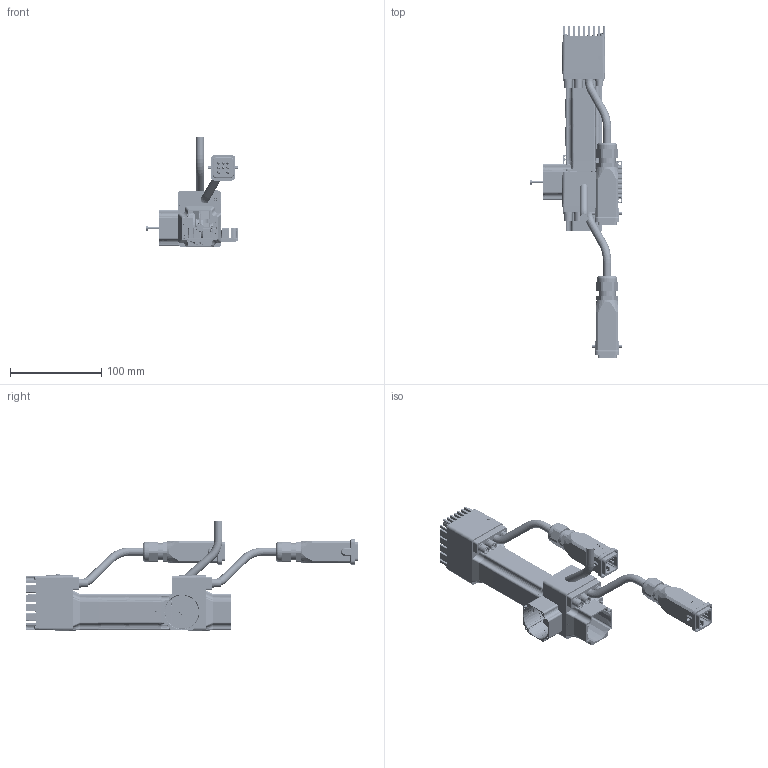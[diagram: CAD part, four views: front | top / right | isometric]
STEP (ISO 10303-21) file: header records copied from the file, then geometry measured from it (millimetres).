
FILE_DESCRIPTION( ( 'Unknown' ), '1' );
FILE_NAME( 'K:/Q0A975.stp', 'Unknown', ( 'Unknown' ), ( 'Unknown' ), 'PSStep 14.0', 'Unknown', ' ' );
FILE_SCHEMA( ( 'AUTOMOTIVE_DESIGN { 1 0 10303 214 1 1 1 1 }' ) );
Length unit declared in the file: millimetre
Products named in the file (47): 003755102005; 003108020031; Assem1; 007117000802; 005117001543; 005117001544; 005603001500; CAVO D9 N13A48; 005117000974; 005117000976; 003755102004; 003251021000; 003303000026; 005007000200; 003175000136; CUSC_7_19_6_607_ZZ; Vite a brugola testa cil 8,8 -  M  3 x 35; Vite a brugola testa cil 8,8 -  M  3 x 35-oa0; Vite a brugola testa cil 8,8 -  M  3 x 35-oa1; Vite a brugola testa cil 8,8 -  M  3 x 35-oa2; Vite a brugola testa cil 8,8 -  M 2,5 x 16; Vite a brugola testa cil 8,8 -  M 2,5 x 16-oa3; Vite a brugola testa cil 8,8 -  M 2,5 x 16-oa4; Vite a brugola testa cil 8,8 -  M 2,5 x 16-oa5; Anello OR 1 D26; Anello OR 1 D19-oa6; CUSC_10_26_8_6000_ZZ; 005009000072; VECST-8112 M  2,5 x 12; 003303000030; 003016000054; 005152000028; LI-PIA   3x3 x 15; 003155001088; 003911000268; 003003199251; 003120002005
Bounding box: 102.04 x 364.37 x 120.14 mm (x, y, z)
Volume: 416135.6 mm3; surface area: 354503.6 mm2
Topology: 106 solids, 110 shells, 13304 faces, 34492 edges, 21831 vertices
Faces by surface type: plane 6825, cylinder 4359, bspline 820, sphere 446, cone 399, torus 365, extrusion 86, revolution 4
Full cylindrical faces by diameter (mm): 0.226 x5, 0.296 x5, 0.95 x5, 1 x64, 1.05 x5, 1.6 x40, 1.75 x40, 1.8 x5, 2 x17, 2.013 x24, 2.025 x5, 2.05 x4, 2.25 x5, 2.459 x16, 2.5 x24, 2.6 x38, 2.8 x40, 3 x34, 3.2 x130, 3.242 x26, 3.4 x40, 3.5 x4, 4 x5, 4.2 x2, 4.445 x2, 4.5 x2, 4.7 x8, 4.75 x15, 5 x7, 5.5 x8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
Entity records: 175961 total; most frequent: CARTESIAN_POINT 45146, DIRECTION 20807, ORIENTED_EDGE 20176, EDGE_CURVE 10088, AXIS2_PLACEMENT_3D 7684, VERTEX_POINT 6503, VECTOR 5437, LINE 5415
